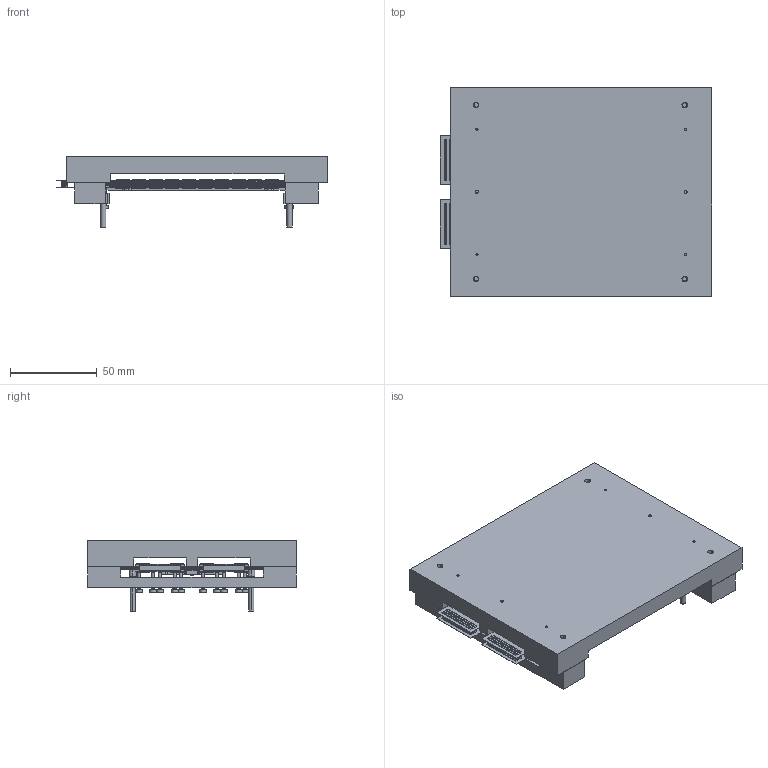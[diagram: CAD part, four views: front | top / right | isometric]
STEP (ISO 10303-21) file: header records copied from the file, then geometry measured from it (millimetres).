
FILE_DESCRIPTION(('CATIA V5 STEP Exchange'),'2;1');
FILE_NAME('D:\CATIA\ATLAS\Atlas_Maarten\atlas_upgrade_maarten\Ass.Module\STP\Outil_3.stp','2010-09-02T14:33:37+00:00',('none'),('none'),'CATIA Version 5 Release 18 SP 4 (IN-10)','CATIA V5 STEP AP203','none');
FILE_SCHEMA(('CONFIG_CONTROL_DESIGN'));
Length unit declared in the file: millimetre
Products named in the file (11): Outil_3; Base-Board-Assemble; Detecteur_HV; Hybride+PigTale_Plat; PigTale_Plat; Samtec CLE Femmel; Hybride+Bridge_C-C; Sous_Ensemble_Hybride_Sans_PT; 10_Dummy_ASIC; Presseur_Hybride_Ass; Presseur_Hybride_Flex_Ass
Assembly tree (67 placements, depth 6):
  Outil_3
    #56
    Base-Board-Assemble
      #1949  x4
      #2358
      #2923
      #3391  x4
      #3895
    Detecteur_HV  x2
      #4536
      #5234
    Hybride+PigTale_Plat  x4
      PigTale_Plat
        Samtec CLE Femmel
          #6016
          #19464
        #33789
      Hybride+Bridge_C-C
        #33985
        Sous_Ensemble_Hybride_Sans_PT
          10_Dummy_ASIC  x2
            #34299
          #34751
    #34984  x2
    #35197
    Presseur_Hybride_Ass
      #36687
      #37903  x2
      #38105  x2
      #38996  x6
    Presseur_Hybride_Flex_Ass
      #39792
      #37903  x2
      #38105  x2
      #38996  x4
Bounding box: 156.12 x 120 x 40.73 mm (x, y, z)
Volume: 260812.4 mm3; surface area: 205731.1 mm2
Topology: 375 solids, 375 shells, 6138 faces, 14856 edges, 9534 vertices
Faces by surface type: plane 5177, cylinder 793, cone 104, torus 64
Entity records: 40989 total; most frequent: CARTESIAN_POINT 7487, ORIENTED_EDGE 7466, DIRECTION 5256, EDGE_CURVE 3733, VECTOR 2847, LINE 2847, VERTEX_POINT 2393, EDGE_LOOP 1750
